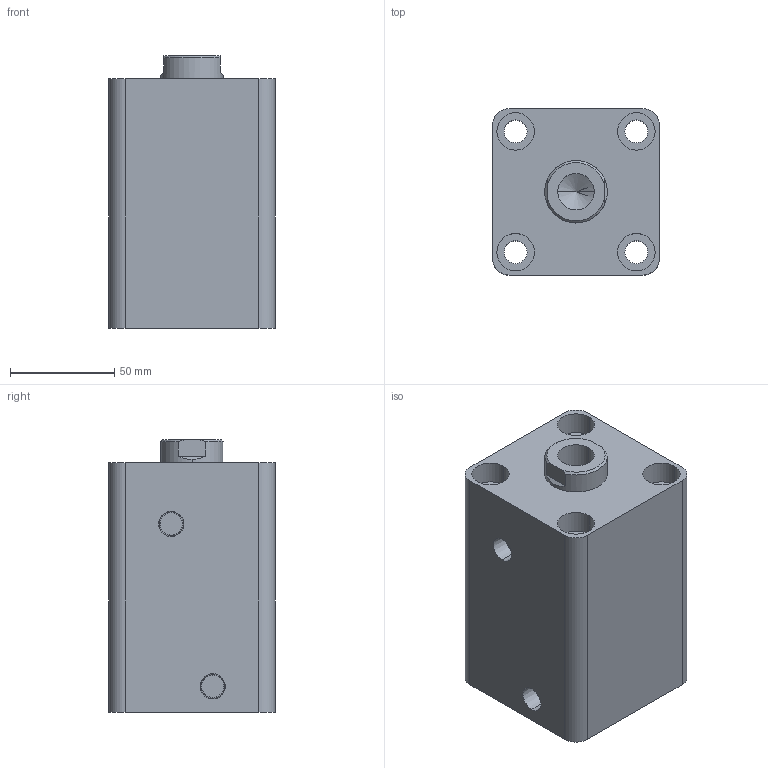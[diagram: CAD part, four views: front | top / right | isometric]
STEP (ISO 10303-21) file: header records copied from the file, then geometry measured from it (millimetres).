
FILE_DESCRIPTION (( 'STEP AP203' ), '1' );
FILE_NAME ('HTB-SD50-60N.STEP', '2019-10-07T07:10:51', ( '微软用户' ), ( '微软中国' ), 'SwSTEP 2.0', 'SolidWorks 2012', '' );
FILE_SCHEMA (( 'CONFIG_CONTROL_DESIGN' ));
Length unit declared in the file: millimetre
Products named in the file (3): HTB-SD50-60N; HTB-SD50-60N活塞杆; HTB-SD50-60掛极
Assembly tree (2 placements, depth 2):
  HTB-SD50-60N
    HTB-SD50-60掛极
    HTB-SD50-60N活塞杆
Bounding box: 80 x 80 x 131 mm (x, y, z)
Volume: 625042.3 mm3; surface area: 103726.4 mm2
Topology: 2 solids, 2 shells, 83 faces, 184 edges, 119 vertices
Faces by surface type: cylinder 42, plane 27, cone 8, torus 6
Entity records: 2655 total; most frequent: DIRECTION 456, CARTESIAN_POINT 417, ORIENTED_EDGE 364, AXIS2_PLACEMENT_3D 194, EDGE_CURVE 182, VERTEX_POINT 119, EDGE_LOOP 107, CIRCLE 106
